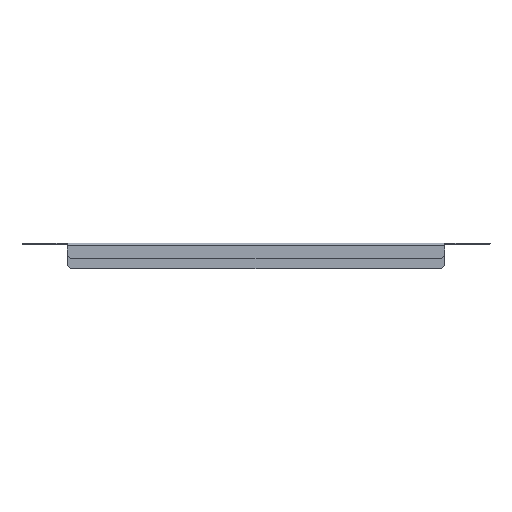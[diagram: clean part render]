
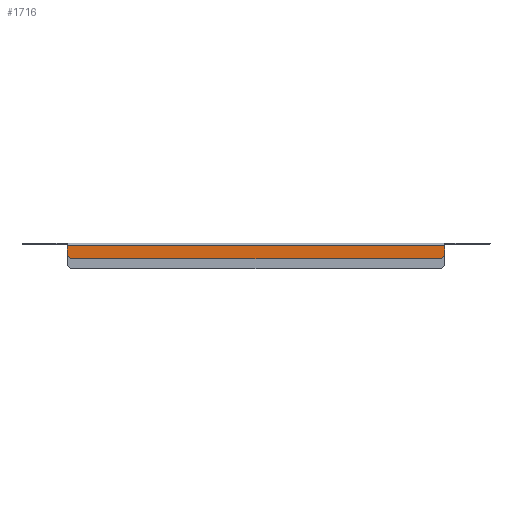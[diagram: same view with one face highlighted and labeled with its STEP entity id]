
A CAD part, front view. The second image highlights one B-rep face of the part: STEP entity #1716.
In plain terms, the highlighted planar face has unit normal (0, -1, 0).
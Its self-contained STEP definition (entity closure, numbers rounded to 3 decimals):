
#128 = LINE ( 'NONE', #129, #551 ) ;
#129 = CARTESIAN_POINT ( 'NONE',  ( -196.25, -99.5, -27. ) ) ;
#130 = DIRECTION ( 'NONE',  ( 0., 0., 1. ) ) ;
#131 = LINE ( 'NONE', #132, #539 ) ;
#132 = CARTESIAN_POINT ( 'NONE',  ( 196.25, -99.5, -12.8 ) ) ;
#133 = DIRECTION ( 'NONE',  ( 0.707, 0., 0.707 ) ) ;
#134 = LINE ( 'NONE', #135, #538 ) ;
#135 = CARTESIAN_POINT ( 'NONE',  ( 196.25, -99.5, -16.3 ) ) ;
#136 = DIRECTION ( 'NONE',  ( -1., 0., 0. ) ) ;
#176 = LINE ( 'NONE', #177, #549 ) ;
#177 = CARTESIAN_POINT ( 'NONE',  ( 196.25, -99.5, -2.9 ) ) ;
#178 = DIRECTION ( 'NONE',  ( 1., 0., 0. ) ) ;
#188 = LINE ( 'NONE', #189, #664 ) ;
#189 = CARTESIAN_POINT ( 'NONE',  ( 196.25, -99.5, -1.4 ) ) ;
#190 = DIRECTION ( 'NONE',  ( 0., 0., -1. ) ) ;
#194 = LINE ( 'NONE', #195, #661 ) ;
#195 = CARTESIAN_POINT ( 'NONE',  ( -192.75, -99.5, -16.3 ) ) ;
#196 = DIRECTION ( 'NONE',  ( 0.707, 0., -0.707 ) ) ;
#472 = PLANE ( 'NONE',  #792 ) ;
#473 = CARTESIAN_POINT ( 'NONE',  ( 196.25, -99.5, -27. ) ) ;
#474 = DIRECTION ( 'NONE',  ( 0., 1., 0. ) ) ;
#475 = DIRECTION ( 'NONE',  ( 0., 0., 1. ) ) ;
#538 = VECTOR ( 'NONE', #136, 1000. ) ;
#539 = VECTOR ( 'NONE', #133, 1000. ) ;
#549 = VECTOR ( 'NONE', #178, 1000. ) ;
#551 = VECTOR ( 'NONE', #130, 1000. ) ;
#661 = VECTOR ( 'NONE', #196, 1000. ) ;
#664 = VECTOR ( 'NONE', #190, 1000. ) ;
#789 = FACE_OUTER_BOUND ( 'NONE', #1073, .T. ) ;
#792 = AXIS2_PLACEMENT_3D ( 'NONE', #473, #474, #475 ) ;
#825 = ORIENTED_EDGE ( 'NONE', *, *, #1614, .F. ) ;
#826 = ORIENTED_EDGE ( 'NONE', *, *, #1632, .F. ) ;
#829 = ORIENTED_EDGE ( 'NONE', *, *, #1634, .T. ) ;
#852 = ORIENTED_EDGE ( 'NONE', *, *, #1613, .T. ) ;
#853 = ORIENTED_EDGE ( 'NONE', *, *, #1612, .F. ) ;
#854 = ORIENTED_EDGE ( 'NONE', *, *, #1628, .F. ) ;
#1073 = EDGE_LOOP ( 'NONE', ( #825, #852, #826, #854, #853, #829 ) ) ;
#1188 = VERTEX_POINT ( 'NONE', #1328 ) ;
#1190 = VERTEX_POINT ( 'NONE', #1330 ) ;
#1191 = VERTEX_POINT ( 'NONE', #1331 ) ;
#1194 = VERTEX_POINT ( 'NONE', #1334 ) ;
#1195 = VERTEX_POINT ( 'NONE', #1335 ) ;
#1196 = VERTEX_POINT ( 'NONE', #1336 ) ;
#1328 = CARTESIAN_POINT ( 'NONE',  ( 196.25, -99.5, -2.9 ) ) ;
#1330 = CARTESIAN_POINT ( 'NONE',  ( -196.25, -99.5, -2.9 ) ) ;
#1331 = CARTESIAN_POINT ( 'NONE',  ( 196.25, -99.5, -12.8 ) ) ;
#1334 = CARTESIAN_POINT ( 'NONE',  ( -196.25, -99.5, -12.8 ) ) ;
#1335 = CARTESIAN_POINT ( 'NONE',  ( 192.75, -99.5, -16.3 ) ) ;
#1336 = CARTESIAN_POINT ( 'NONE',  ( -192.75, -99.5, -16.3 ) ) ;
#1612 = EDGE_CURVE ( 'NONE', #1194, #1190, #128, .T. ) ;
#1613 = EDGE_CURVE ( 'NONE', #1195, #1191, #131, .T. ) ;
#1614 = EDGE_CURVE ( 'NONE', #1195, #1196, #134, .T. ) ;
#1628 = EDGE_CURVE ( 'NONE', #1190, #1188, #176, .T. ) ;
#1632 = EDGE_CURVE ( 'NONE', #1188, #1191, #188, .T. ) ;
#1634 = EDGE_CURVE ( 'NONE', #1194, #1196, #194, .T. ) ;
#1716 = ADVANCED_FACE ( 'NONE', ( #789 ), #472, .F. ) ;
